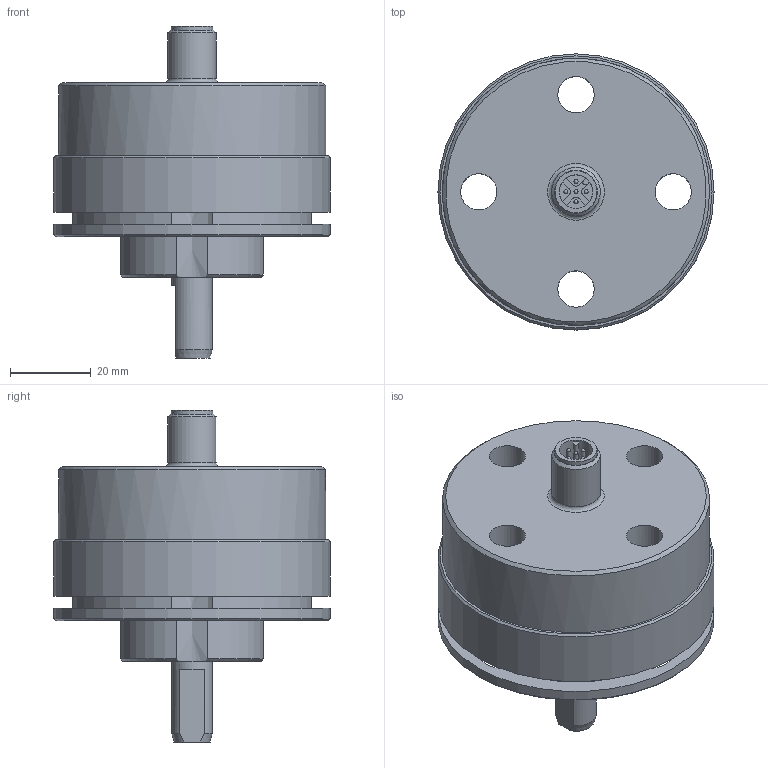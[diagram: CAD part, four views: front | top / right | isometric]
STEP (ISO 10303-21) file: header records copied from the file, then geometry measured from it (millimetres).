
FILE_DESCRIPTION((''),'2;1');
FILE_NAME('K:\Daten\pras5v-ax.stp','2010-02-09T16:21:17',('kamp'),(''),'Autodesk Inventor 2008','Autodesk Inventor 2008','');
FILE_SCHEMA(('AUTOMOTIVE_DESIGN { 1 0 10303 214 1 1 1 1 }'));
Length unit declared in the file: millimetre
Products named in the file (1): Bauteil16
Bounding box: 68.2 x 68.2 x 82 mm (x, y, z)
Volume: 128823.9 mm3; surface area: 24377.8 mm2
Topology: 1 solids, 1 shells, 102 faces, 269 edges, 175 vertices
Faces by surface type: plane 33, cylinder 28, bspline 23, cone 11, sphere 5, torus 2
Full cylindrical faces by diameter (mm): 1 x5, 8.3 x1, 10 x1, 10.4 x1, 12 x1, 14 x1, 20 x1, 21 x1, 66 x1, 68.2 x2
Entity records: 3238 total; most frequent: CARTESIAN_POINT 846, DIRECTION 490, ORIENTED_EDGE 414, AXIS2_PLACEMENT_3D 213, EDGE_CURVE 207, EDGE_LOOP 171, VERTEX_POINT 160, CIRCLE 133
